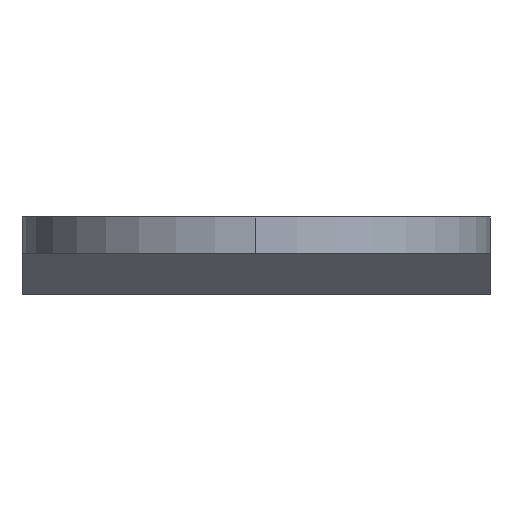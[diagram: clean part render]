
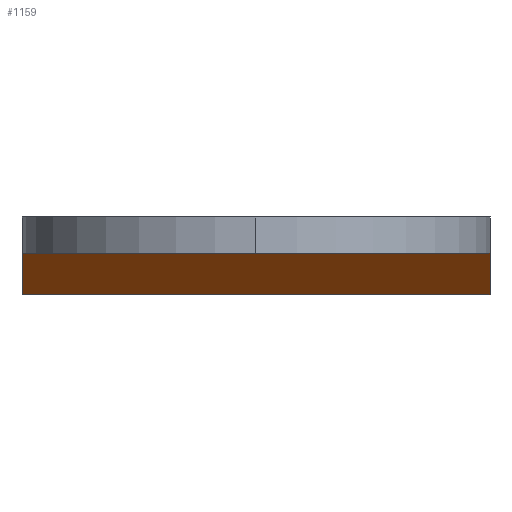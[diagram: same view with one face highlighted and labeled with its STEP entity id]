
A CAD part, left-side view. The second image highlights one B-rep face of the part: STEP entity #1159.
In plain terms, the highlighted planar face has unit normal (-0.707, 0, -0.707).
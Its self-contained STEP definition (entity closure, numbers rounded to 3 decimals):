
#29 = ORIENTED_EDGE ( 'NONE', *, *, #358, .F. ) ;
#30 = ORIENTED_EDGE ( 'NONE', *, *, #2882, .F. ) ;
#31 = ORIENTED_EDGE ( 'NONE', *, *, #533, .F. ) ;
#32 = ORIENTED_EDGE ( 'NONE', *, *, #354, .F. ) ;
#354 = EDGE_CURVE ( 'NONE', #2852, #2857, #1215, .T. ) ;
#358 = EDGE_CURVE ( 'NONE', #2851, #2852, #1223, .T. ) ;
#533 = EDGE_CURVE ( 'NONE', #2857, #2858, #1398, .T. ) ;
#1121 = DIRECTION ( 'NONE',  ( 0., 1., 0. ) ) ;
#1125 = CARTESIAN_POINT ( 'NONE',  ( 149., -45., -98.5 ) ) ;
#1126 = DIRECTION ( 'NONE',  ( 0.707, 0., -0.707 ) ) ;
#1159 = ADVANCED_FACE ( 'NONE', ( #3613 ), #1334, .F. ) ;
#1215 = LINE ( 'NONE', #1616, #1216 ) ;
#1216 = VECTOR ( 'NONE', #1121, 1000. ) ;
#1223 = LINE ( 'NONE', #1125, #1226 ) ;
#1226 = VECTOR ( 'NONE', #1126, 1000. ) ;
#1334 = PLANE ( 'NONE',  #2276 ) ;
#1335 = CARTESIAN_POINT ( 'NONE',  ( 60., 45., -9.5 ) ) ;
#1336 = DIRECTION ( 'NONE',  ( 0.707, 0., 0.707 ) ) ;
#1337 = DIRECTION ( 'NONE',  ( 0., 1., 0. ) ) ;
#1398 = LINE ( 'NONE', #3462, #1399 ) ;
#1399 = VECTOR ( 'NONE', #3380, 1000. ) ;
#1616 = CARTESIAN_POINT ( 'NONE',  ( 58., 0., -7.5 ) ) ;
#2276 = AXIS2_PLACEMENT_3D ( 'NONE', #1335, #1336, #1337 ) ;
#2505 = LINE ( 'NONE', #3087, #2507 ) ;
#2507 = VECTOR ( 'NONE', #3089, 1000. ) ;
#2834 = EDGE_LOOP ( 'NONE', ( #29, #30, #31, #32 ) ) ;
#2851 = VERTEX_POINT ( 'NONE', #3046 ) ;
#2852 = VERTEX_POINT ( 'NONE', #3047 ) ;
#2857 = VERTEX_POINT ( 'NONE', #3053 ) ;
#2858 = VERTEX_POINT ( 'NONE', #3042 ) ;
#2882 = EDGE_CURVE ( 'NONE', #2858, #2851, #2505, .T. ) ;
#3042 = CARTESIAN_POINT ( 'NONE',  ( 50., 45., 0.5 ) ) ;
#3046 = CARTESIAN_POINT ( 'NONE',  ( 50., -45., 0.5 ) ) ;
#3047 = CARTESIAN_POINT ( 'NONE',  ( 58., -45., -7.5 ) ) ;
#3053 = CARTESIAN_POINT ( 'NONE',  ( 58., 45., -7.5 ) ) ;
#3087 = CARTESIAN_POINT ( 'NONE',  ( 50., 0., 0.5 ) ) ;
#3089 = DIRECTION ( 'NONE',  ( 0., -1., 0. ) ) ;
#3380 = DIRECTION ( 'NONE',  ( -0.707, 0., 0.707 ) ) ;
#3462 = CARTESIAN_POINT ( 'NONE',  ( 21.5, 45., 29. ) ) ;
#3613 = FACE_OUTER_BOUND ( 'NONE', #2834, .T. ) ;
